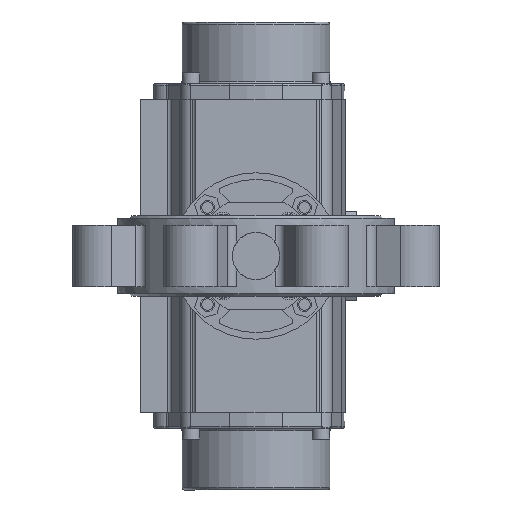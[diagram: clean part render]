
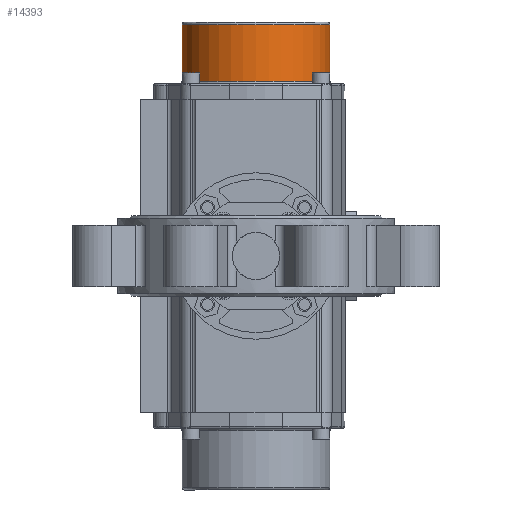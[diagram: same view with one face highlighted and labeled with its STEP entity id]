
A CAD part, front view. The second image highlights one B-rep face of the part: STEP entity #14393.
In plain terms, the highlighted cylindrical face has radius 55 mm (diameter 110 mm), a partial arc.
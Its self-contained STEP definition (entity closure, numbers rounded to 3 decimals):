
#575 = EDGE_CURVE ( 'NONE', #25268, #22535, #1385, .T. ) ;
#1094 = VERTEX_POINT ( 'NONE', #9659 ) ;
#1385 = LINE ( 'NONE', #13310, #4234 ) ;
#1701 = AXIS2_PLACEMENT_3D ( 'NONE', #18211, #22583, #4652 ) ;
#3359 = LINE ( 'NONE', #9480, #16051 ) ;
#3555 = EDGE_CURVE ( 'NONE', #22535, #1094, #8209, .T. ) ;
#4234 = VECTOR ( 'NONE', #17031, 1000. ) ;
#4652 = DIRECTION ( 'NONE',  ( 0., 0., -1. ) ) ;
#4797 = DIRECTION ( 'NONE',  ( 1., 0., 0. ) ) ;
#6814 = CARTESIAN_POINT ( 'NONE',  ( 130.3, 0., 0. ) ) ;
#6913 = CYLINDRICAL_SURFACE ( 'NONE', #18473, 55. ) ;
#7022 = CIRCLE ( 'NONE', #1701, 55. ) ;
#8209 = CIRCLE ( 'NONE', #24601, 55. ) ;
#8725 = DIRECTION ( 'NONE',  ( -1., 0., 0. ) ) ;
#9260 = ORIENTED_EDGE ( 'NONE', *, *, #575, .T. ) ;
#9480 = CARTESIAN_POINT ( 'NONE',  ( 174.25, 0., -55. ) ) ;
#9659 = CARTESIAN_POINT ( 'NONE',  ( 130.3, 0., -55. ) ) ;
#11581 = CARTESIAN_POINT ( 'NONE',  ( 172.25, 0., 55. ) ) ;
#12035 = ORIENTED_EDGE ( 'NONE', *, *, #3555, .T. ) ;
#12090 = VERTEX_POINT ( 'NONE', #18355 ) ;
#13310 = CARTESIAN_POINT ( 'NONE',  ( 174.25, 0., 55. ) ) ;
#14110 = ORIENTED_EDGE ( 'NONE', *, *, #15120, .T. ) ;
#14192 = EDGE_LOOP ( 'NONE', ( #23340, #14110, #9260, #12035 ) ) ;
#14393 = ADVANCED_FACE ( 'NONE', ( #22461 ), #6913, .T. ) ;
#14865 = EDGE_CURVE ( 'NONE', #12090, #1094, #3359, .T. ) ;
#15120 = EDGE_CURVE ( 'NONE', #12090, #25268, #7022, .T. ) ;
#15205 = CARTESIAN_POINT ( 'NONE',  ( 130.3, 0., 55. ) ) ;
#15945 = DIRECTION ( 'NONE',  ( 0., 0., 1. ) ) ;
#16051 = VECTOR ( 'NONE', #19359, 1000. ) ;
#17031 = DIRECTION ( 'NONE',  ( -1., 0., 0. ) ) ;
#18211 = CARTESIAN_POINT ( 'NONE',  ( 172.25, 0., 0. ) ) ;
#18355 = CARTESIAN_POINT ( 'NONE',  ( 172.25, 0., -55. ) ) ;
#18473 = AXIS2_PLACEMENT_3D ( 'NONE', #19785, #8725, #15945 ) ;
#18616 = DIRECTION ( 'NONE',  ( 0., 0., -1. ) ) ;
#19359 = DIRECTION ( 'NONE',  ( -1., 0., 0. ) ) ;
#19785 = CARTESIAN_POINT ( 'NONE',  ( 174.25, 0., 0. ) ) ;
#22461 = FACE_OUTER_BOUND ( 'NONE', #14192, .T. ) ;
#22535 = VERTEX_POINT ( 'NONE', #15205 ) ;
#22583 = DIRECTION ( 'NONE',  ( -1., 0., 0. ) ) ;
#23340 = ORIENTED_EDGE ( 'NONE', *, *, #14865, .F. ) ;
#24601 = AXIS2_PLACEMENT_3D ( 'NONE', #6814, #4797, #18616 ) ;
#25268 = VERTEX_POINT ( 'NONE', #11581 ) ;
